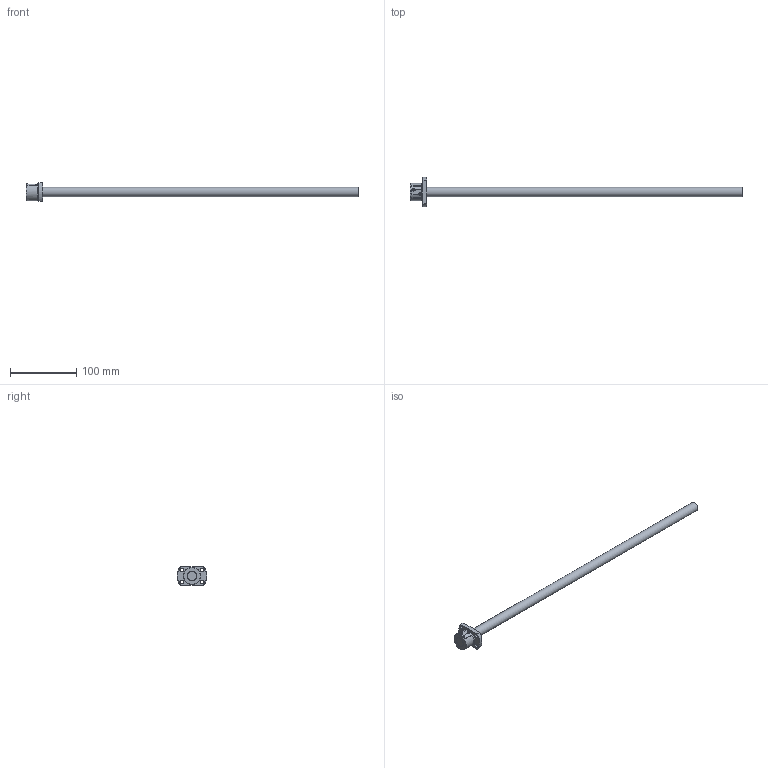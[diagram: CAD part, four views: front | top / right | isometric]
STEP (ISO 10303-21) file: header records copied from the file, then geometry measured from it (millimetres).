
FILE_DESCRIPTION( ( 'STEP AP203' ), '1' );
FILE_NAME( 'e:/temp/worker_93/temp/exporttempdir_5268_1868_KZcNj/format_0/SR1402-500R500C10(0).stp', '2021-10-19T04:02:23', ( 'License CC BY-ND 4.0' ), ( 'CADENAS' ), ' ', 'PARTsolutions', ' ' );
FILE_SCHEMA( ( 'CONFIG_CONTROL_DESIGN' ) );
Length unit declared in the file: millimetre
Products named in the file (3): SR1402-500R500C10(0); _SR1402-500R500C10C10(0)_shaft; _SR1402-500R500C10C10_nut
Assembly tree (2 placements, depth 2):
  SR1402-500R500C10(0)
    _SR1402-500R500C10C10(0)_shaft
    _SR1402-500R500C10C10_nut
Bounding box: 500 x 45 x 28 mm (x, y, z)
Volume: 89317.1 mm3; surface area: 28030.8 mm2
Topology: 2 solids, 2 shells, 58 faces, 149 edges, 98 vertices
Faces by surface type: plane 25, cylinder 24, cone 9
Full cylindrical faces by diameter (mm): 1.07 x2, 5.5 x4, 14 x2, 15 x2, 25.5 x1, 26 x1
Entity records: 1808 total; most frequent: CARTESIAN_POINT 363, DIRECTION 286, ORIENTED_EDGE 250, EDGE_CURVE 125, AXIS2_PLACEMENT_3D 118, VERTEX_POINT 91, EDGE_LOOP 88, FACE_OUTER_BOUND 70
